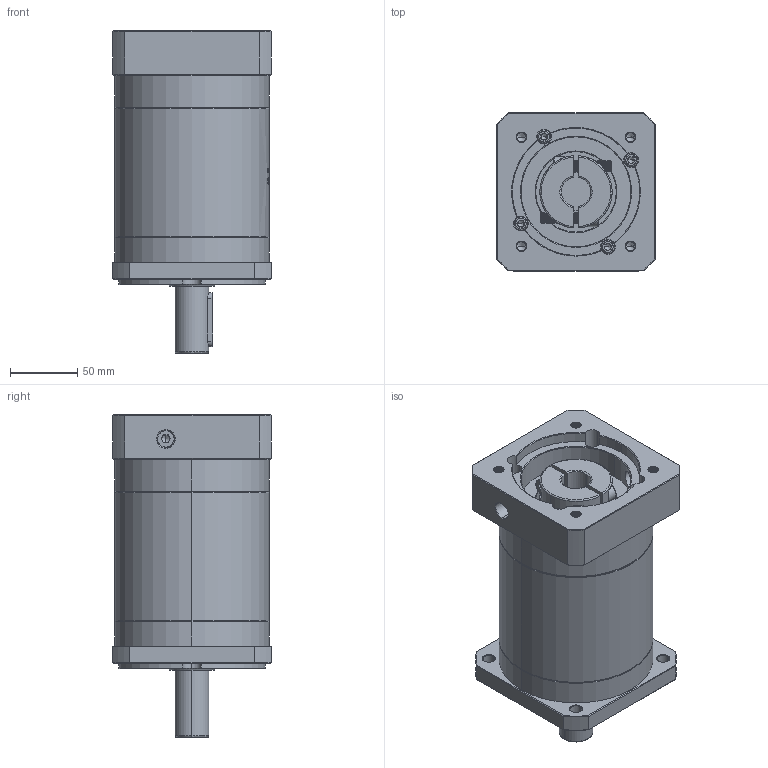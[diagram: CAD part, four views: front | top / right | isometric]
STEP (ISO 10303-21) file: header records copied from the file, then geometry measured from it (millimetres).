
FILE_DESCRIPTION (( 'STEP AP214' ), '1' );
FILE_NAME ('ZF120A-D25-L3-22-95-115-M8.step', '2023-03-07T09:31:14', ( '' ), ( '' ), 'SwSTEP 2.0', 'SolidWorks 2016', '' );
FILE_SCHEMA (( 'AUTOMOTIVE_DESIGN' ));
Length unit declared in the file: millimetre
Products named in the file (1): ZF120A-D25-L3-22-95-115-M8
Bounding box: 118 x 118 x 240.5 mm (x, y, z)
Volume: 1952643.4 mm3; surface area: 179398.3 mm2
Topology: 6 solids, 6 shells, 1959 faces, 5139 edges, 3274 vertices
Faces by surface type: plane 857, cylinder 429, bspline 341, cone 332
Entity records: 107293 total; most frequent: CARTESIAN_POINT 41375, ORIENTED_EDGE 10218, DIRECTION 7892, EDGE_CURVE 5109, VERTEX_POINT 3274, VECTOR 2750, LINE 2750, AXIS2_PLACEMENT_3D 2571
